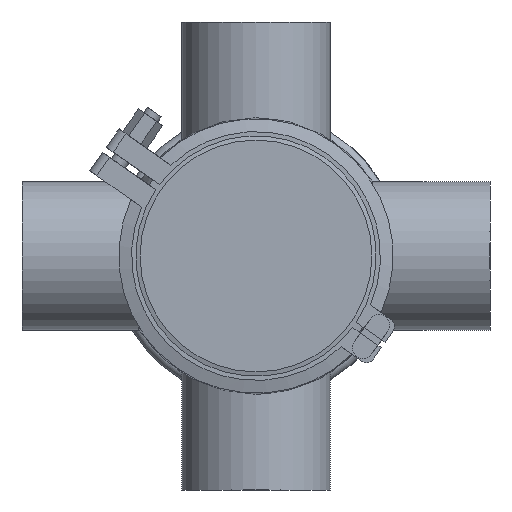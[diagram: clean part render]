
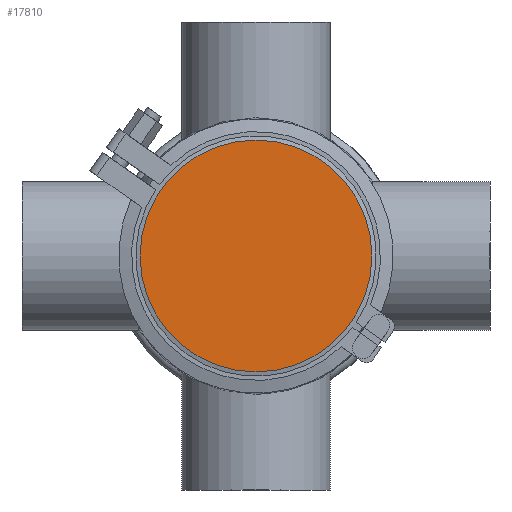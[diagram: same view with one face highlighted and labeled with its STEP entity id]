
A CAD part, front view. The second image highlights one B-rep face of the part: STEP entity #17810.
In plain terms, the highlighted planar face has unit normal (0, -1, 0).
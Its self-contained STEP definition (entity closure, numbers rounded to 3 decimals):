
#746 = DIRECTION ( 'NONE',  ( 0., 0., 1. ) ) ;
#3356 = ORIENTED_EDGE ( 'NONE', *, *, #15646, .F. ) ;
#7636 = EDGE_LOOP ( 'NONE', ( #3356 ) ) ;
#9273 = AXIS2_PLACEMENT_3D ( 'NONE', #9616, #11445, #20891 ) ;
#9275 = CIRCLE ( 'NONE', #18518, 54.5 ) ;
#9616 = CARTESIAN_POINT ( 'NONE',  ( -54.5, 0., 0. ) ) ;
#11445 = DIRECTION ( 'NONE',  ( 0., -1., 0. ) ) ;
#11831 = CARTESIAN_POINT ( 'NONE',  ( 0., 0., 54.5 ) ) ;
#12433 = DIRECTION ( 'NONE',  ( 0., 1., 0. ) ) ;
#14399 = FACE_OUTER_BOUND ( 'NONE', #7636, .T. ) ;
#15646 = EDGE_CURVE ( 'NONE', #20181, #20181, #9275, .T. ) ;
#17810 = ADVANCED_FACE ( 'NONE', ( #14399 ), #19354, .T. ) ;
#18518 = AXIS2_PLACEMENT_3D ( 'NONE', #20349, #12433, #746 ) ;
#19354 = PLANE ( 'NONE',  #9273 ) ;
#20181 = VERTEX_POINT ( 'NONE', #11831 ) ;
#20349 = CARTESIAN_POINT ( 'NONE',  ( 0., 0., 0. ) ) ;
#20891 = DIRECTION ( 'NONE',  ( 0., 0., -1. ) ) ;
